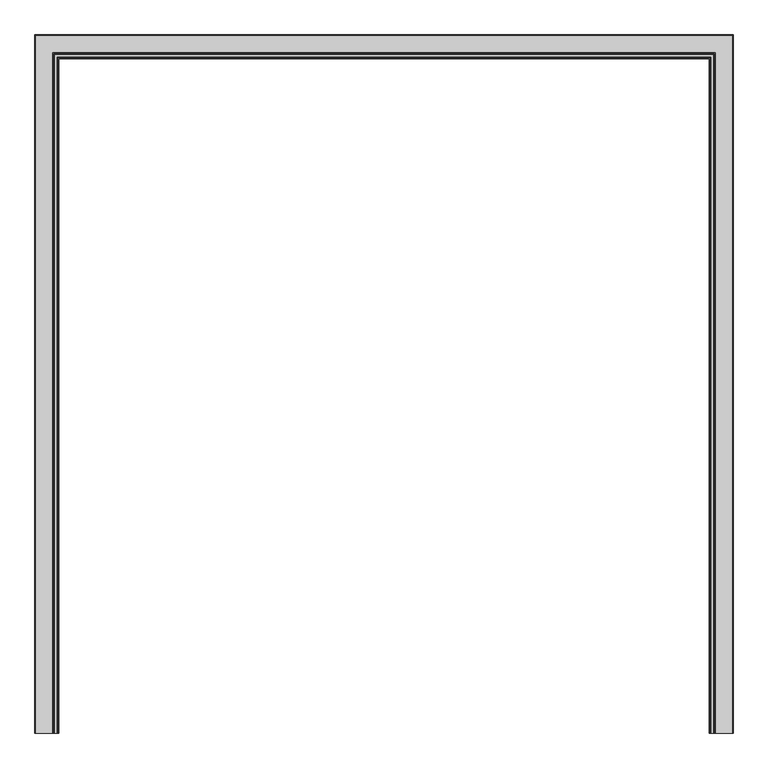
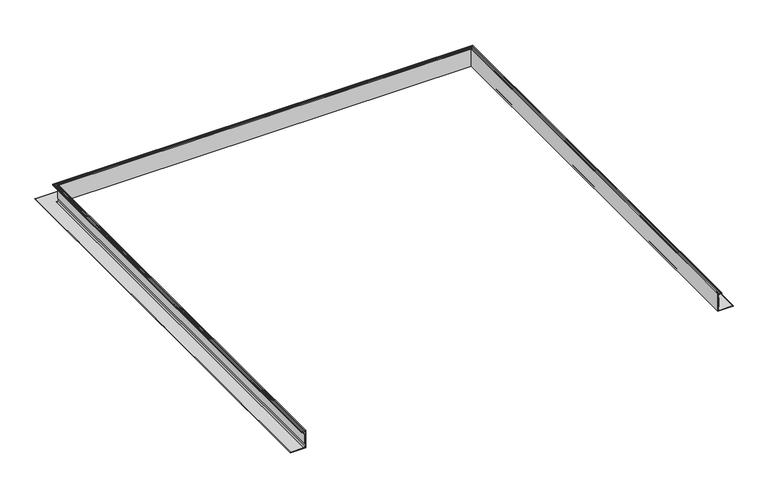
"""IFC4 building model written with IfcOpenShell, lengths in millimetres: fastener geometry."""

from ifc_helpers import new_model, si_unit, frame, origin, place, context, project, spatial, polyline, circle_curve, ellipse_curve, outline, extrude, source, transform, mapped, element, save
from ifc_brep_helpers import plane_surface, cylinder_surface, revolved_surface, advanced_brep


def fastener_3b44d110(model_context):
    return source(origin(), model_context, "Body", "SolidModel", [
        advanced_brep(
        [(-1135.3165, -1219.2, -15.1804688), (-1141.2343456, -1219.2, -15.1804688), (-1141.460117, -1219.2, -17.1999455), (-1140.3710112, -1219.2, -18.2679836), (-1140.8594568, -1219.2, -19.21101), (-1152.5091166, -1219.2, -19.21101), (-1152.9649499, -1219.2, -18.2679836), (-1151.9131963, -1219.2, -17.1999455), (-1152.1178999, -1219.2, -15.1804688), (-1156.2117258, -1219.2, -15.1804688), (-1156.2117258, -1219.2, -21.87801), (-1137.9835, -1219.2, -21.87801), (-1137.9835, -1219.2, -106.5625171), (-1145.5344517, -1219.2, -114.1134688), (-1217.8665, -1219.2, -114.1134688), (-1217.8665, -1219.2, -116.7804688), (-1135.3165, -1219.2, -116.7804688), (1135.3165, -1219.2, -15.1804688), (1135.3165, -1219.2, -116.7804688), (1217.8665, -1219.2, -116.7804688), (1217.8665, -1219.2, -114.1134688), (1145.5344517, -1219.2, -114.1134688), (1137.9835, -1219.2, -106.5625171), (1137.9835, -1219.2, -21.87801), (1156.2117258, -1219.2, -21.87801), (1156.2117258, -1219.2, -15.1804688), (1152.1178999, -1219.2, -15.1804688), (1151.9131963, -1219.2, -17.1999455), (1152.9649499, -1219.2, -18.2679836), (1152.5091166, -1219.2, -19.21101), (1140.8594568, -1219.2, -19.21101), (1140.3710112, -1219.2, -18.2679836), (1141.460117, -1219.2, -17.1999455), (1141.2343456, -1219.2, -15.1804688), (-1141.460117, 1141.460117, -17.1999455), (-1141.2343456, 1141.2343456, -15.1804688), (1141.2343456, 1141.2343456, -15.1804688), (1141.460117, 1141.460117, -17.1999455), (-1140.3710112, 1140.3710112, -18.2679836), (1140.3710112, 1140.3710112, -18.2679836), (-1140.8594568, 1140.8594568, -19.21101), (1140.8594568, 1140.8594568, -19.21101), (-1152.9649499, 1152.9649499, -18.2679836), (-1152.5091166, 1152.5091166, -19.21101), (1152.5091166, 1152.5091166, -19.21101), (1152.9649499, 1152.9649499, -18.2679836), (-1151.9131963, 1151.9131963, -17.1999455), (1151.9131963, 1151.9131963, -17.1999455), (-1152.1178999, 1152.1178999, -15.1804688), (1152.1178999, 1152.1178999, -15.1804688), (-1156.2117258, 1156.2117258, -21.87801), (-1156.2117258, 1156.2117258, -15.1804688), (1156.2117258, 1156.2117258, -15.1804688), (1156.2117258, 1156.2117258, -21.87801), (-1137.9835, 1137.9835, -106.5625171), (-1137.9835, 1137.9835, -21.87801), (1137.9835, 1137.9835, -21.87801), (1137.9835, 1137.9835, -106.5625171), (-1145.5344517, 1145.5344517, -114.1134688), (1145.5344517, 1145.5344517, -114.1134688), (-1217.8665, 1217.8665, -116.7804688), (-1217.8665, 1217.8665, -114.1134688), (1217.8665, 1217.8665, -114.1134688), (1217.8665, 1217.8665, -116.7804688), (-1135.3165, 1135.3165, -15.1804688), (-1135.3165, 1135.3165, -116.7804688), (1135.3165, 1135.3165, -116.7804688), (1135.3165, 1135.3165, -15.1804688)],
        [
            (0, 1),
            (1, 2, circle_curve(frame((-1140.5022273, -1219.2, -16.284676), z_axis=(0.0, -1.0, 0.0), x_axis=(-1.0, 0.0, 0.0)), 1.3248664)),
            (2, 3),
            (3, 4, circle_curve(frame((-1140.8594568, -1219.2, -18.6130003), z_axis=(0.0, 1.0, 0.0), x_axis=(-1.0, 0.0, 0.0)), 0.5980097)),
            (4, 5),
            (5, 6, circle_curve(frame((-1152.5091166, -1219.2, -18.6293281), z_axis=(0.0, 1.0, 0.0), x_axis=(-1.0, 0.0, 0.0)), 0.5816819)),
            (6, 7),
            (7, 8, circle_curve(frame((-1152.8274757, -1219.2, -16.2725079), z_axis=(0.0, -1.0, 0.0), x_axis=(-1.0, 0.0, 0.0)), 1.3023238)),
            (8, 9),
            (9, 10),
            (10, 11),
            (11, 12),
            (12, 13, circle_curve(frame((-1145.5344517, -1219.2, -106.5625171), z_axis=(0.0, 1.0, 0.0), x_axis=(-1.0, 0.0, 0.0)), 7.5509517)),
            (13, 14),
            (14, 15, circle_curve(frame((-1217.8665, -1219.2, -115.4469688), z_axis=(0.0, -1.0, 0.0), x_axis=(-1.0, 0.0, 0.0)), 1.3335)),
            (15, 16),
            (16, 0),
            (17, 18),
            (18, 19),
            (19, 20, circle_curve(frame((1217.8665, -1219.2, -115.4469688), z_axis=(0.0, -1.0, 0.0), x_axis=(1.0, 0.0, 0.0)), 1.3335)),
            (20, 21),
            (21, 22, circle_curve(frame((1145.5344517, -1219.2, -106.5625171), z_axis=(0.0, 1.0, 0.0), x_axis=(1.0, 0.0, 0.0)), 7.5509517)),
            (22, 23),
            (23, 24),
            (24, 25),
            (25, 26),
            (26, 27, circle_curve(frame((1152.8274757, -1219.2, -16.2725079), z_axis=(0.0, -1.0, 0.0), x_axis=(1.0, 0.0, 0.0)), 1.3023238)),
            (27, 28),
            (28, 29, circle_curve(frame((1152.5091166, -1219.2, -18.6293281), z_axis=(0.0, 1.0, 0.0), x_axis=(1.0, 0.0, 0.0)), 0.5816819)),
            (29, 30),
            (30, 31, circle_curve(frame((1140.8594568, -1219.2, -18.6130003), z_axis=(0.0, 1.0, 0.0), x_axis=(1.0, 0.0, 0.0)), 0.5980097)),
            (31, 32),
            (32, 33, circle_curve(frame((1140.5022273, -1219.2, -16.284676), z_axis=(0.0, -1.0, 0.0), x_axis=(1.0, 0.0, 0.0)), 1.3248664)),
            (33, 17),
            (34, 35, ellipse_curve(frame((-1140.5022273, 1140.5022273, -16.284676), z_axis=(0.7071067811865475, 0.7071067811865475, 0.0), x_axis=(-0.7071067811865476, 0.7071067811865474, 0.0)), 1.873644, 1.3248664)),
            (35, 36),
            (36, 37, ellipse_curve(frame((1140.5022273, 1140.5022273, -16.284676), z_axis=(-0.7071067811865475, 0.7071067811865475, 0.0), x_axis=(-0.7071067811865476, -0.7071067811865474, 0.0)), 1.873644, 1.3248664)),
            (37, 34),
            (38, 34),
            (37, 39),
            (39, 38),
            (40, 38, ellipse_curve(frame((-1140.8594568, 1140.8594568, -18.6130003), z_axis=(-0.7071067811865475, -0.7071067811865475, 0.0), x_axis=(0.7071067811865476, -0.7071067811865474, 0.0)), 0.8457134, 0.5980097)),
            (39, 41, ellipse_curve(frame((1140.8594568, 1140.8594568, -18.6130003), z_axis=(0.7071067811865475, -0.7071067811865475, 0.0), x_axis=(0.7071067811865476, 0.7071067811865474, 0.0)), 0.8457134, 0.5980097)),
            (41, 40),
            (42, 43, ellipse_curve(frame((-1152.5091166, 1152.5091166, -18.6293281), z_axis=(-0.7071067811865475, -0.7071067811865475, 0.0), x_axis=(0.7071067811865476, -0.7071067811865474, 0.0)), 0.8226224, 0.5816819)),
            (43, 44),
            (44, 45, ellipse_curve(frame((1152.5091166, 1152.5091166, -18.6293281), z_axis=(0.7071067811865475, -0.7071067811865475, 0.0), x_axis=(0.7071067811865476, 0.7071067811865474, 0.0)), 0.8226224, 0.5816819)),
            (45, 42),
            (46, 42),
            (45, 47),
            (47, 46),
            (48, 46, ellipse_curve(frame((-1152.8274757, 1152.8274757, -16.2725079), z_axis=(0.7071067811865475, 0.7071067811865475, 0.0), x_axis=(-0.7071067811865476, 0.7071067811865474, 0.0)), 1.841764, 1.3023238)),
            (47, 49, ellipse_curve(frame((1152.8274757, 1152.8274757, -16.2725079), z_axis=(-0.7071067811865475, 0.7071067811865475, 0.0), x_axis=(-0.7071067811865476, -0.7071067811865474, 0.0)), 1.841764, 1.3023238)),
            (49, 48),
            (50, 51),
            (51, 52),
            (52, 53),
            (53, 50),
            (54, 55),
            (55, 56),
            (56, 57),
            (57, 54),
            (58, 54, ellipse_curve(frame((-1145.5344517, 1145.5344517, -106.5625171), z_axis=(-0.7071067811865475, -0.7071067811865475, 0.0), x_axis=(0.7071067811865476, -0.7071067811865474, 0.0)), 10.6786583, 7.5509517)),
            (57, 59, ellipse_curve(frame((1145.5344517, 1145.5344517, -106.5625171), z_axis=(0.7071067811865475, -0.7071067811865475, 0.0), x_axis=(0.7071067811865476, 0.7071067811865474, 0.0)), 10.6786583, 7.5509517)),
            (59, 58),
            (60, 61, ellipse_curve(frame((-1217.8665, 1217.8665, -115.4469688), z_axis=(0.7071067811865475, 0.7071067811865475, 0.0), x_axis=(-0.7071067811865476, 0.7071067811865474, 0.0)), 1.8858538, 1.3335)),
            (61, 62),
            (62, 63, ellipse_curve(frame((1217.8665, 1217.8665, -115.4469688), z_axis=(-0.7071067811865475, 0.7071067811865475, 0.0), x_axis=(-0.7071067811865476, -0.7071067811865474, 0.0)), 1.8858538, 1.3335)),
            (63, 60),
            (64, 65),
            (65, 66),
            (66, 67),
            (67, 64),
            (0, 64),
            (67, 17),
            (33, 36),
            (35, 1),
            (34, 2),
            (38, 3),
            (40, 4),
            (41, 30),
            (29, 44),
            (43, 5),
            (42, 6),
            (46, 7),
            (48, 8),
            (49, 26),
            (25, 52),
            (51, 9),
            (50, 10),
            (53, 24),
            (23, 56),
            (55, 11),
            (54, 12),
            (58, 13),
            (59, 21),
            (20, 62),
            (61, 14),
            (60, 15),
            (63, 19),
            (18, 66),
            (65, 16),
            (32, 37),
            (31, 39),
            (28, 45),
            (27, 47),
            (22, 57),
        ],
        [
            plane_surface(frame((-1219.2, -1219.2, 0.0), z_axis=(0.0, -1.0, 0.0), x_axis=(0.0, 0.0, 1.0))),
            plane_surface(frame((1219.2, -1219.2, 0.0), z_axis=(0.0, -1.0, 0.0), x_axis=(0.0, 0.0, 1.0))),
            cylinder_surface(frame((-1219.2, 1140.5022273, -16.284676), z_axis=(-1.0, 0.0, 0.0), x_axis=(0.0, 1.0, 0.0)), 1.3248664),
            plane_surface(frame((-1141.460117, 1141.460117, -17.1999455), z_axis=(0.0, 0.7001674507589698, -0.7139786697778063), x_axis=(1.0, 0.0, 0.0))),
            revolved_surface(polyline([(1141.4574664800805, 1141.4574665, -18.6130003), (-1141.4574664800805, 1141.4574665, -18.6130003)]), (-1219.2, 1140.8594568, -18.6130003), (1.0, 0.0, 0.0)),
            revolved_surface(polyline([(1153.090798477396, 1153.0907985, -18.6293281), (-1153.090798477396, 1153.0907985, -18.6293281)]), (-1219.2, 1152.5091166, -18.6293281), (1.0, 0.0, 0.0)),
            plane_surface(frame((-1152.9649499, 1152.9649499, -18.2679836), z_axis=(0.0, -0.7125178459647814, -0.7016539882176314), x_axis=(1.0, 0.0, 0.0))),
            cylinder_surface(frame((-1219.2, 1152.8274757, -16.2725079), z_axis=(-1.0, 0.0, 0.0), x_axis=(0.0, 1.0, 0.0)), 1.3023238),
            plane_surface(frame((-1156.2117258, 1156.2117258, -15.1804688), z_axis=(0.0, 1.0, 0.0), x_axis=(1.0, 0.0, 0.0))),
            plane_surface(frame((-1137.9835, 1137.9835, -21.87801), z_axis=(0.0, 1.0, 0.0), x_axis=(1.0, 0.0, 0.0))),
            revolved_surface(polyline([(1153.0854033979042, 1153.0854034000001, -106.5625171), (-1153.0854033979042, 1153.0854034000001, -106.5625171)]), (-1219.2, 1145.5344517, -106.5625171), (1.0, 0.0, 0.0)),
            cylinder_surface(frame((-1219.2, 1217.8665, -115.4469688), z_axis=(-1.0, 0.0, 0.0), x_axis=(0.0, 1.0, 0.0)), 1.3335),
            plane_surface(frame((-1135.3165, 1135.3165, -116.7804688), z_axis=(0.0, -1.0, 0.0), x_axis=(1.0, 0.0, 0.0))),
            plane_surface(frame((-1135.3165, -1219.2, -15.1804688), z_axis=(0.0, 0.0, 1.0), x_axis=(0.0, 1.0, 0.0))),
            cylinder_surface(frame((-1140.5022273, -1219.2, -16.284676), z_axis=(0.0, -1.0, 0.0), x_axis=(-1.0, 0.0, 0.0)), 1.3248664),
            plane_surface(frame((-1141.460117, -1219.2, -17.1999455), z_axis=(-0.7001674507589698, 0.0, -0.7139786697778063), x_axis=(0.0, 1.0, 0.0))),
            revolved_surface(polyline([(-1141.4574665, 1141.4574664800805, -18.6130003), (-1141.4574665, -1219.2, -18.6130003)]), (-1140.8594568, -1219.2, -18.6130003), (0.0, 1.0, 0.0)),
            plane_surface(frame((-1140.8594568, -1219.2, -19.21101), z_axis=(0.0, 0.0, 1.0), x_axis=(0.0, 1.0, 0.0))),
            revolved_surface(polyline([(-1153.0907985, 1153.090798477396, -18.6293281), (-1153.0907985, -1219.2, -18.6293281)]), (-1152.5091166, -1219.2, -18.6293281), (0.0, 1.0, 0.0)),
            plane_surface(frame((-1152.9649499, -1219.2, -18.2679836), z_axis=(0.7125178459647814, 0.0, -0.7016539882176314), x_axis=(0.0, 1.0, 0.0))),
            cylinder_surface(frame((-1152.8274757, -1219.2, -16.2725079), z_axis=(0.0, -1.0, 0.0), x_axis=(-1.0, 0.0, 0.0)), 1.3023238),
            plane_surface(frame((-1152.1178999, -1219.2, -15.1804688), z_axis=(0.0, 0.0, 1.0), x_axis=(0.0, 1.0, 0.0))),
            plane_surface(frame((-1156.2117258, -1219.2, -15.1804688), z_axis=(-1.0, 0.0, 0.0), x_axis=(0.0, 1.0, 0.0))),
            plane_surface(frame((-1156.2117258, -1219.2, -21.87801), z_axis=(0.0, 0.0, -1.0), x_axis=(0.0, 1.0, 0.0))),
            plane_surface(frame((-1137.9835, -1219.2, -21.87801), z_axis=(-1.0, 0.0, 0.0), x_axis=(0.0, 1.0, 0.0))),
            revolved_surface(polyline([(-1153.0854034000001, 1153.0854033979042, -106.5625171), (-1153.0854034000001, -1219.2, -106.5625171)]), (-1145.5344517, -1219.2, -106.5625171), (0.0, 1.0, 0.0)),
            plane_surface(frame((-1145.5344517, -1219.2, -114.1134688), z_axis=(0.0, 0.0, 1.0), x_axis=(0.0, 1.0, 0.0))),
            cylinder_surface(frame((-1217.8665, -1219.2, -115.4469688), z_axis=(0.0, -1.0, 0.0), x_axis=(-1.0, 0.0, 0.0)), 1.3335),
            plane_surface(frame((-1217.8665, -1219.2, -116.7804688), z_axis=(0.0, 0.0, -1.0), x_axis=(0.0, 1.0, 0.0))),
            plane_surface(frame((-1135.3165, -1219.2, -116.7804688), z_axis=(1.0, 0.0, 0.0), x_axis=(0.0, 1.0, 0.0))),
            cylinder_surface(frame((1140.5022273, 1219.2, -16.284676), z_axis=(0.0, 1.0, 0.0), x_axis=(1.0, 0.0, 0.0)), 1.3248664),
            plane_surface(frame((1141.460117, 1141.460117, -17.1999455), z_axis=(0.7001674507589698, 0.0, -0.7139786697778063), x_axis=(0.0, -1.0, 0.0))),
            revolved_surface(polyline([(1141.4574665, -1219.2, -18.6130003), (1141.4574665, 1141.4574664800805, -18.6130003)]), (1140.8594568, 1219.2, -18.6130003), (0.0, -1.0, 0.0)),
            revolved_surface(polyline([(1153.0907985, -1219.2, -18.6293281), (1153.0907985, 1153.090798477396, -18.6293281)]), (1152.5091166, 1219.2, -18.6293281), (0.0, -1.0, 0.0)),
            plane_surface(frame((1152.9649499, 1152.9649499, -18.2679836), z_axis=(-0.7125178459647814, 0.0, -0.7016539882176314), x_axis=(0.0, -1.0, 0.0))),
            cylinder_surface(frame((1152.8274757, 1219.2, -16.2725079), z_axis=(0.0, 1.0, 0.0), x_axis=(1.0, 0.0, 0.0)), 1.3023238),
            plane_surface(frame((1156.2117258, 1156.2117258, -15.1804688), z_axis=(1.0, 0.0, 0.0), x_axis=(0.0, -1.0, 0.0))),
            plane_surface(frame((1137.9835, 1137.9835, -21.87801), z_axis=(1.0, 0.0, 0.0), x_axis=(0.0, -1.0, 0.0))),
            revolved_surface(polyline([(1153.0854034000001, -1219.2, -106.5625171), (1153.0854034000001, 1153.0854033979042, -106.5625171)]), (1145.5344517, 1219.2, -106.5625171), (0.0, -1.0, 0.0)),
            cylinder_surface(frame((1217.8665, 1219.2, -115.4469688), z_axis=(0.0, 1.0, 0.0), x_axis=(1.0, 0.0, 0.0)), 1.3335),
            plane_surface(frame((1135.3165, 1135.3165, -116.7804688), z_axis=(-1.0, 0.0, 0.0), x_axis=(0.0, -1.0, 0.0))),
        ],
        [
            (0, [[1, 2, 3, 4, 5, 6, 7, 8, 9, 10, 11, 12, 13, 14, 15, 16, 17]]),
            (1, [[18, 19, 20, 21, 22, 23, 24, 25, 26, 27, 28, 29, 30, 31, 32, 33, 34]]),
            (2, [[35, 36, 37, 38]]),
            (3, [[39, -38, 40, 41]]),
            (4, [[42, -41, 43, 44]]),
            (5, [[45, 46, 47, 48]]),
            (6, [[49, -48, 50, 51]]),
            (7, [[52, -51, 53, 54]]),
            (8, [[55, 56, 57, 58]]),
            (9, [[59, 60, 61, 62]]),
            (10, [[63, -62, 64, 65]]),
            (11, [[66, 67, 68, 69]]),
            (12, [[70, 71, 72, 73]]),
            (13, [[-1, 74, -73, 75, -34, 76, -36, 77]]),
            (14, [[-2, -77, -35, 78]]),
            (15, [[-3, -78, -39, 79]]),
            (16, [[-4, -79, -42, 80]]),
            (17, [[-5, -80, -44, 81, -30, 82, -46, 83]]),
            (18, [[-6, -83, -45, 84]]),
            (19, [[-7, -84, -49, 85]]),
            (20, [[-8, -85, -52, 86]]),
            (21, [[-9, -86, -54, 87, -26, 88, -56, 89]]),
            (22, [[-10, -89, -55, 90]]),
            (23, [[-11, -90, -58, 91, -24, 92, -60, 93]]),
            (24, [[-12, -93, -59, 94]]),
            (25, [[-13, -94, -63, 95]]),
            (26, [[-14, -95, -65, 96, -21, 97, -67, 98]]),
            (27, [[-15, -98, -66, 99]]),
            (28, [[-16, -99, -69, 100, -19, 101, -71, 102]]),
            (29, [[-17, -102, -70, -74]]),
            (30, [[-37, -76, -33, 103]]),
            (31, [[-40, -103, -32, 104]]),
            (32, [[-43, -104, -31, -81]]),
            (33, [[-47, -82, -29, 105]]),
            (34, [[-50, -105, -28, 106]]),
            (35, [[-53, -106, -27, -87]]),
            (36, [[-57, -88, -25, -91]]),
            (37, [[-61, -92, -23, 107]]),
            (38, [[-64, -107, -22, -96]]),
            (39, [[-68, -97, -20, -100]]),
            (40, [[-72, -101, -18, -75]]),
        ],
    ),
        extrude(outline(polyline([(-1137.9835, -1219.2), (-1139.9113319, -1219.2), (-1139.9113319, 1139.9113319), (1139.9113319, 1139.9113319), (1139.9113319, -1219.2), (1137.9835, -1219.2), (1137.9835, 1137.9835), (-1137.9835, 1137.9835), (-1137.9835, -1219.2)])), frame((0.0, 0.0, -92.5710938), z_axis=(0.0, 0.0, 1.0), x_axis=(1.0, 0.0, 0.0)), (0.0, 0.0, 1.0), 53.18125),
    ])


if __name__ == "__main__":
    model = new_model("IFC4")
    model_context = context("Model", 3, world=origin())
    ifc_project = project(units=[si_unit("LENGTHUNIT", "METRE", prefix="MILLI")], contexts=[model_context])
    site = spatial("IfcSite", under=ifc_project)
    building = spatial("IfcBuilding", under=site)
    placement = place(None, origin())
    fastener_shape = fastener_3b44d110(model_context)
    element("IfcFastener", 1, ObjectType="Structural-Supporting-Components_Advanced-Architectural-Products_GreenGirt-CMH-XO-System : GreenGirt CMH XO 4.0\"", at=placement, inside=building, context=model_context, shape_type="MappedRepresentation", body=[
        mapped(fastener_shape, transform((0.0, 0.0, 0.0), x_axis=(1.0, 0.0, 0.0), y_axis=(0.0, 1.0, 0.0), z_axis=(0.0, 0.0, 1.0))),
    ])
    save(model, "model.ifc")
